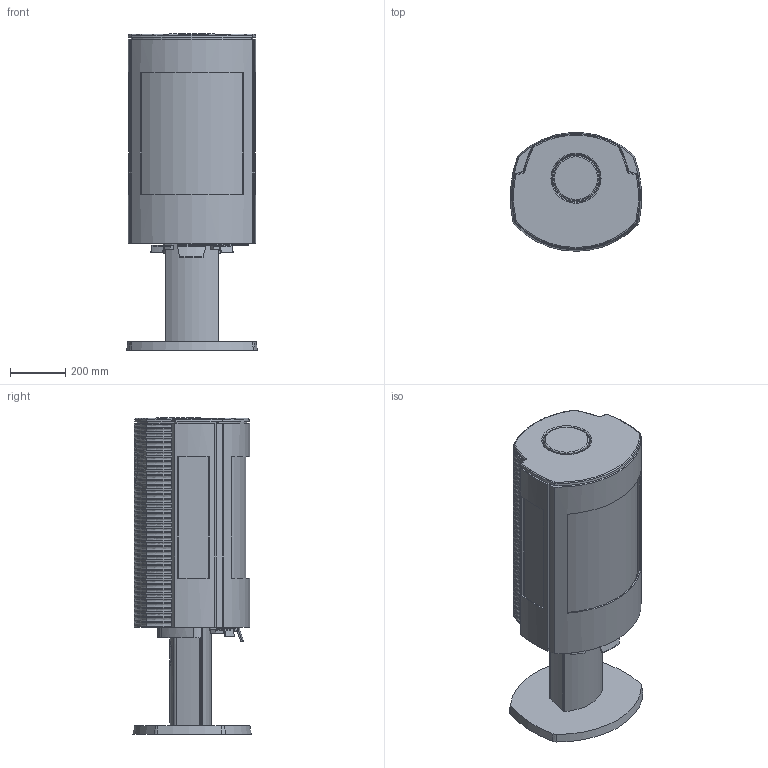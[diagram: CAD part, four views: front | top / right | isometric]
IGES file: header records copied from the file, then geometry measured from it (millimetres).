
Global section: file name: No Iges File Name specified; native system: Autodesk Inventor 2010; preprocessor: AutoDesk Inventor Iges Exporter R2010; author: sp11; date: 20110328.103538; units: millimetre
Bounding box: 473.13 x 428.55 x 1143 mm (x, y, z)
Volume: 24552897.9 mm3; surface area: 4767436.5 mm2
Topology: 5 solids, 5 shells, 1548 faces, 4299 edges, 2749 vertices
Faces by surface type: bspline 849, plane 361, cylinder 230, revolution 70, torus 18, cone 18, sphere 2
